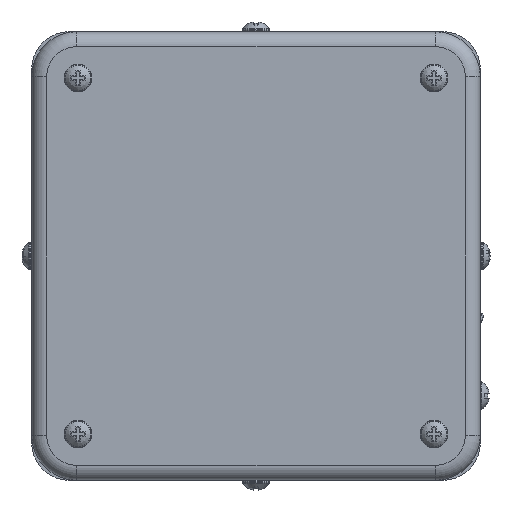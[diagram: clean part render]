
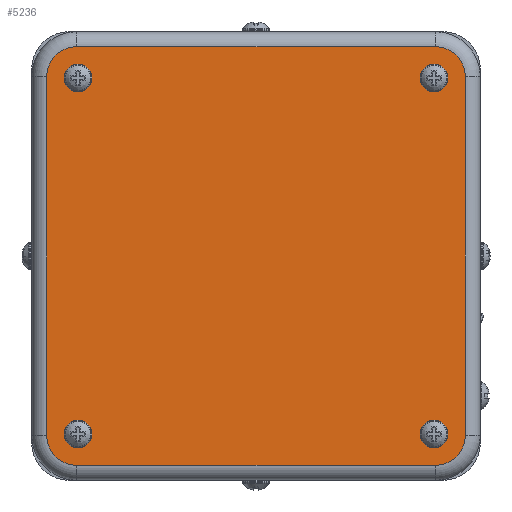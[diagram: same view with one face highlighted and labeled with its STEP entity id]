
A CAD part, left-side view. The second image highlights one B-rep face of the part: STEP entity #5236.
In plain terms, the highlighted planar face has unit normal (-1, 0, 0).
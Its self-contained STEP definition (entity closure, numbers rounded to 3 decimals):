
#337=FACE_BOUND('',#1130,.T.);
#338=FACE_BOUND('',#1131,.T.);
#339=FACE_BOUND('',#1132,.T.);
#340=FACE_BOUND('',#1133,.T.);
#434=CIRCLE('',#5499,2.8);
#514=CIRCLE('',#5687,6.);
#517=CIRCLE('',#5692,6.);
#520=CIRCLE('',#5697,6.);
#522=CIRCLE('',#5701,6.);
#523=CIRCLE('',#5703,2.8);
#524=CIRCLE('',#5704,2.8);
#525=CIRCLE('',#5705,2.8);
#745=FACE_OUTER_BOUND('',#1129,.T.);
#1129=EDGE_LOOP('',(#3912,#3913,#3914,#3915,#3916,#3917,#3918,#3919));
#1130=EDGE_LOOP('',(#3920));
#1131=EDGE_LOOP('',(#3921));
#1132=EDGE_LOOP('',(#3922));
#1133=EDGE_LOOP('',(#3923));
#1478=LINE('',#8256,#1840);
#1481=LINE('',#8267,#1843);
#1483=LINE('',#8276,#1845);
#1485=LINE('',#8285,#1847);
#1840=VECTOR('',#6664,72.);
#1843=VECTOR('',#6679,72.);
#1845=VECTOR('',#6691,72.);
#1847=VECTOR('',#6703,72.);
#2095=VERTEX_POINT('',#7439);
#2281=VERTEX_POINT('',#8253);
#2282=VERTEX_POINT('',#8255);
#2283=VERTEX_POINT('',#8260);
#2284=VERTEX_POINT('',#8265);
#2285=VERTEX_POINT('',#8269);
#2286=VERTEX_POINT('',#8274);
#2287=VERTEX_POINT('',#8278);
#2288=VERTEX_POINT('',#8283);
#2289=VERTEX_POINT('',#8289);
#2290=VERTEX_POINT('',#8291);
#2291=VERTEX_POINT('',#8293);
#2599=EDGE_CURVE('',#2095,#2095,#434,.T.);
#2859=EDGE_CURVE('',#2281,#2282,#1478,.T.);
#2863=EDGE_CURVE('',#2283,#2281,#514,.T.);
#2866=EDGE_CURVE('',#2284,#2283,#1481,.T.);
#2868=EDGE_CURVE('',#2285,#2284,#517,.T.);
#2871=EDGE_CURVE('',#2286,#2285,#1483,.T.);
#2873=EDGE_CURVE('',#2287,#2286,#520,.T.);
#2876=EDGE_CURVE('',#2288,#2287,#1485,.T.);
#2877=EDGE_CURVE('',#2282,#2288,#522,.T.);
#2878=EDGE_CURVE('',#2289,#2289,#523,.T.);
#2879=EDGE_CURVE('',#2290,#2290,#524,.T.);
#2880=EDGE_CURVE('',#2291,#2291,#525,.T.);
#3912=ORIENTED_EDGE('',*,*,#2877,.F.);
#3913=ORIENTED_EDGE('',*,*,#2859,.F.);
#3914=ORIENTED_EDGE('',*,*,#2863,.F.);
#3915=ORIENTED_EDGE('',*,*,#2866,.F.);
#3916=ORIENTED_EDGE('',*,*,#2868,.F.);
#3917=ORIENTED_EDGE('',*,*,#2871,.F.);
#3918=ORIENTED_EDGE('',*,*,#2873,.F.);
#3919=ORIENTED_EDGE('',*,*,#2876,.F.);
#3920=ORIENTED_EDGE('',*,*,#2878,.T.);
#3921=ORIENTED_EDGE('',*,*,#2599,.T.);
#3922=ORIENTED_EDGE('',*,*,#2879,.T.);
#3923=ORIENTED_EDGE('',*,*,#2880,.T.);
#4648=PLANE('',#5702);
#5236=ADVANCED_FACE('',(#745,#337,#338,#339,#340),#4648,.F.);
#5499=AXIS2_PLACEMENT_3D('',#7440,#6148,#6149);
#5687=AXIS2_PLACEMENT_3D('',#8262,#6672,#6673);
#5692=AXIS2_PLACEMENT_3D('',#8271,#6684,#6685);
#5697=AXIS2_PLACEMENT_3D('',#8280,#6696,#6697);
#5701=AXIS2_PLACEMENT_3D('',#8287,#6706,#6707);
#5702=AXIS2_PLACEMENT_3D('',#8288,#6708,#6709);
#5703=AXIS2_PLACEMENT_3D('',#8290,#6710,#6711);
#5704=AXIS2_PLACEMENT_3D('',#8292,#6712,#6713);
#5705=AXIS2_PLACEMENT_3D('',#8294,#6714,#6715);
#6148=DIRECTION('center_axis',(1.,0.,0.));
#6149=DIRECTION('ref_axis',(0.,0.,1.));
#6664=DIRECTION('',(0.,0.,-1.));
#6672=DIRECTION('center_axis',(1.,0.,0.));
#6673=DIRECTION('ref_axis',(0.,-0.707,0.707));
#6679=DIRECTION('',(0.,-1.,0.));
#6684=DIRECTION('center_axis',(1.,0.,0.));
#6685=DIRECTION('ref_axis',(0.,0.707,0.707));
#6691=DIRECTION('',(0.,0.,1.));
#6696=DIRECTION('center_axis',(1.,0.,0.));
#6697=DIRECTION('ref_axis',(0.,0.707,-0.707));
#6703=DIRECTION('',(0.,1.,0.));
#6706=DIRECTION('center_axis',(1.,0.,0.));
#6707=DIRECTION('ref_axis',(0.,-0.707,-0.707));
#6708=DIRECTION('center_axis',(1.,0.,0.));
#6709=DIRECTION('ref_axis',(0.,0.,-1.));
#6710=DIRECTION('center_axis',(1.,0.,0.));
#6711=DIRECTION('ref_axis',(0.,0.,1.));
#6712=DIRECTION('center_axis',(1.,0.,0.));
#6713=DIRECTION('ref_axis',(0.,0.,1.));
#6714=DIRECTION('center_axis',(1.,0.,0.));
#6715=DIRECTION('ref_axis',(0.,0.,1.));
#7439=CARTESIAN_POINT('',(-54.8,-35.709,32.909));
#7440=CARTESIAN_POINT('Origin',(-54.8,-35.709,35.709));
#8253=CARTESIAN_POINT('',(-54.8,-42.,36.));
#8255=CARTESIAN_POINT('',(-54.8,-42.,-36.));
#8256=CARTESIAN_POINT('',(-54.8,-42.,36.));
#8260=CARTESIAN_POINT('',(-54.8,-36.,42.));
#8262=CARTESIAN_POINT('Origin',(-54.8,-36.,36.));
#8265=CARTESIAN_POINT('',(-54.8,36.,42.));
#8267=CARTESIAN_POINT('',(-54.8,36.,42.));
#8269=CARTESIAN_POINT('',(-54.8,42.,36.));
#8271=CARTESIAN_POINT('Origin',(-54.8,36.,36.));
#8274=CARTESIAN_POINT('',(-54.8,42.,-36.));
#8276=CARTESIAN_POINT('',(-54.8,42.,-36.));
#8278=CARTESIAN_POINT('',(-54.8,36.,-42.));
#8280=CARTESIAN_POINT('Origin',(-54.8,36.,-36.));
#8283=CARTESIAN_POINT('',(-54.8,-36.,-42.));
#8285=CARTESIAN_POINT('',(-54.8,-36.,-42.));
#8287=CARTESIAN_POINT('Origin',(-54.8,-36.,-36.));
#8288=CARTESIAN_POINT('Origin',(-54.8,-7.027,-7.027));
#8289=CARTESIAN_POINT('',(-54.8,35.709,32.909));
#8290=CARTESIAN_POINT('Origin',(-54.8,35.709,35.709));
#8291=CARTESIAN_POINT('',(-54.8,35.709,-38.509));
#8292=CARTESIAN_POINT('Origin',(-54.8,35.709,-35.709));
#8293=CARTESIAN_POINT('',(-54.8,-35.709,-38.509));
#8294=CARTESIAN_POINT('Origin',(-54.8,-35.709,-35.709));
